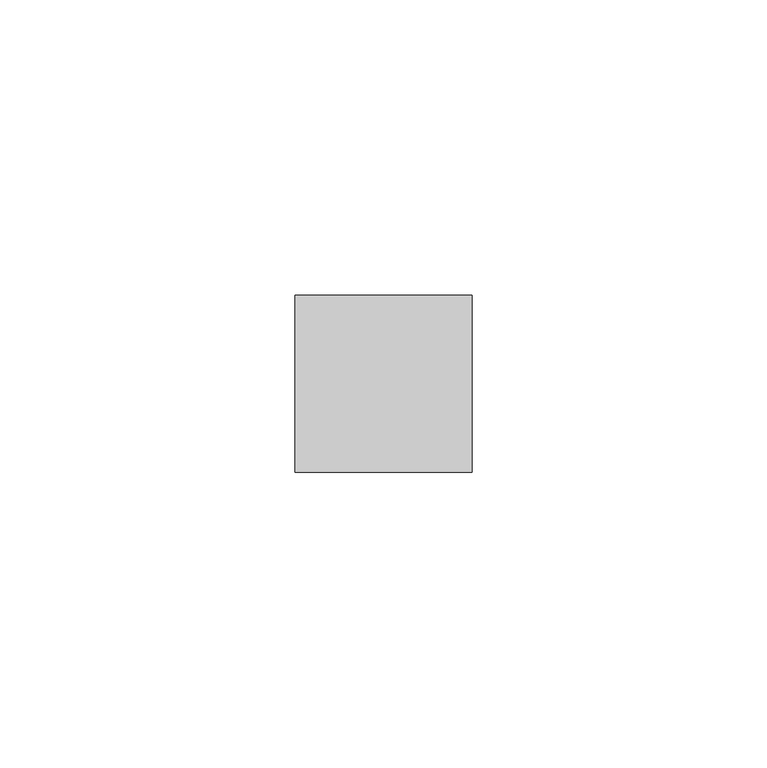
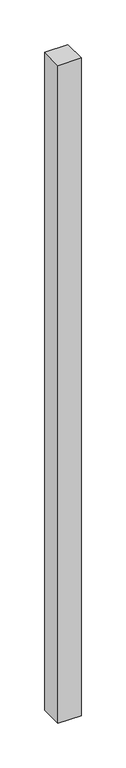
"""IFC4 building model written with IfcOpenShell, lengths in millimetres: member geometry, 矩形竖梃 : 30mm 正方形."""

from ifc_helpers import new_model, si_unit, frame, origin, place, context, project, spatial, polyline, outline, extrude, source, transform, mapped, element, save


def member_5c1dec61(model_context):
    return source(origin(), model_context, "Body", "SweptSolid", [
        extrude(outline(polyline([(15.0, 15.0), (15.0, -15.0), (-15.0, -15.0), (-15.0, 15.0), (15.0, 15.0)])), frame((0.0, 0.0, -900.0), z_axis=(0.0, 0.0, 1.0), x_axis=(1.0, 0.0, 0.0)), (0.0, 0.0, 1.0), 900.0),
    ])


if __name__ == "__main__":
    model = new_model("IFC4")
    model_context = context("Model", 3, world=origin())
    ifc_project = project(units=[si_unit("LENGTHUNIT", "METRE", prefix="MILLI")], contexts=[model_context])
    site = spatial("IfcSite", under=ifc_project)
    building = spatial("IfcBuilding", under=site)
    placement = place(None, origin())
    member_shape = member_5c1dec61(model_context)
    element("IfcMember", 1, ObjectType="矩形竖梃 : 30mm 正方形", at=placement, inside=building, context=model_context, shape_type="MappedRepresentation", body=[
        mapped(member_shape, transform((0.0, 0.0, 0.0), x_axis=(1.0, 0.0, 0.0), y_axis=(0.0, 1.0, 0.0), z_axis=(0.0, 0.0, 1.0))),
    ])
    save(model, "model.ifc")
